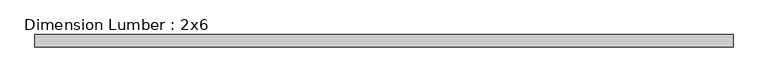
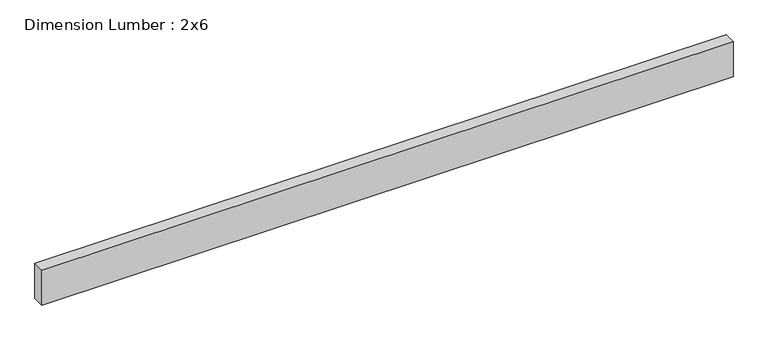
"""IFC4 building model written with IfcOpenShell, lengths in millimetres: beam geometry, Dimension Lumber : 2x6."""

from ifc_helpers import new_model, si_unit, frame, origin, place, context, project, spatial, polyline, outline, extrude, source, transform, mapped, element, save


def dimension_lumber_2x6_64087709(model_context):
    return source(origin(), model_context, "Body", "SweptSolid", [
        extrude(outline(polyline([(1384.295, 25.4), (1384.295, -25.4), (-1481.6634833, -25.4), (-1481.6634833, 25.4), (1384.295, 25.4)])), frame((0.0, 0.0, -76.2), z_axis=(0.0, 0.0, 1.0), x_axis=(1.0, 0.0, 0.0)), (0.0, 0.0, 1.0), 152.4),
    ])


if __name__ == "__main__":
    model = new_model("IFC4")
    model_context = context("Model", 3, world=origin())
    ifc_project = project(units=[si_unit("LENGTHUNIT", "METRE", prefix="MILLI")], contexts=[model_context])
    site = spatial("IfcSite", under=ifc_project)
    building = spatial("IfcBuilding", under=site)
    placement = place(None, origin())
    dimension_lumber_2x6_shape = dimension_lumber_2x6_64087709(model_context)
    element("IfcBeam", 1, ObjectType="Dimension Lumber : 2x6", at=placement, inside=building, context=model_context, shape_type="MappedRepresentation", body=[
        mapped(dimension_lumber_2x6_shape, transform((0.0, 0.0, 0.0), x_axis=(1.0, 0.0, 0.0), y_axis=(0.0, 1.0, 0.0), z_axis=(0.0, 0.0, 1.0))),
    ])
    save(model, "model.ifc")
